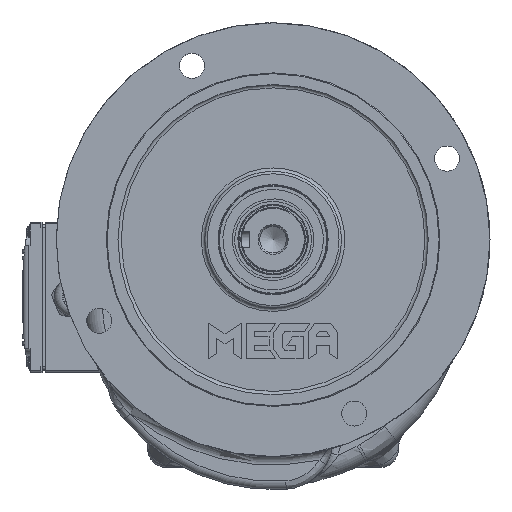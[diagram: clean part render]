
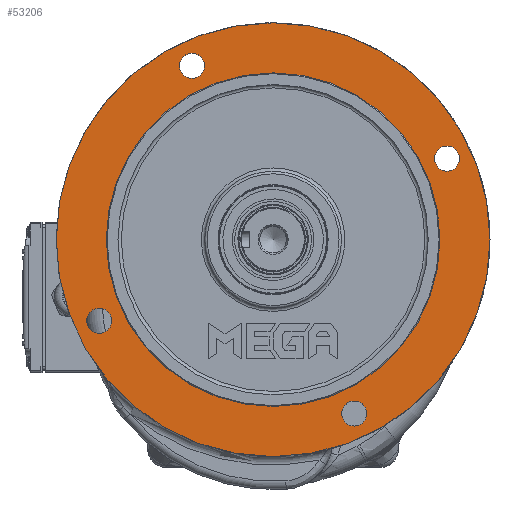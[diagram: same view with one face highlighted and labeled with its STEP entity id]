
A CAD part, top view. The second image highlights one B-rep face of the part: STEP entity #53206.
In plain terms, the highlighted planar face has unit normal (0, 0, 1).
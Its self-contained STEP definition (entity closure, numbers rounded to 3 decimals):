
#527=FACE_BOUND('',#12033,.T.);
#528=FACE_BOUND('',#12034,.T.);
#529=FACE_BOUND('',#12035,.T.);
#530=FACE_BOUND('',#12036,.T.);
#531=FACE_BOUND('',#12037,.T.);
#1030=PLANE('',#57438);
#8670=FACE_OUTER_BOUND('',#12032,.T.);
#12032=EDGE_LOOP('',(#37031));
#12033=EDGE_LOOP('',(#37032));
#12034=EDGE_LOOP('',(#37033));
#12035=EDGE_LOOP('',(#37034));
#12036=EDGE_LOOP('',(#37035));
#12037=EDGE_LOOP('',(#37036));
#15523=CIRCLE('',#57439,130.);
#15524=CIRCLE('',#57440,7.5);
#15525=CIRCLE('',#57441,7.5);
#15526=CIRCLE('',#57442,7.5);
#15527=CIRCLE('',#57443,7.5);
#15528=CIRCLE('',#57444,100.);
#21514=VERTEX_POINT('',#82349);
#21515=VERTEX_POINT('',#82351);
#21516=VERTEX_POINT('',#82353);
#21517=VERTEX_POINT('',#82355);
#21518=VERTEX_POINT('',#82357);
#21519=VERTEX_POINT('',#82359);
#27082=EDGE_CURVE('',#21514,#21514,#15523,.T.);
#27083=EDGE_CURVE('',#21515,#21515,#15524,.T.);
#27084=EDGE_CURVE('',#21516,#21516,#15525,.T.);
#27085=EDGE_CURVE('',#21517,#21517,#15526,.T.);
#27086=EDGE_CURVE('',#21518,#21518,#15527,.T.);
#27087=EDGE_CURVE('',#21519,#21519,#15528,.T.);
#37031=ORIENTED_EDGE('',*,*,#27082,.F.);
#37032=ORIENTED_EDGE('',*,*,#27083,.F.);
#37033=ORIENTED_EDGE('',*,*,#27084,.F.);
#37034=ORIENTED_EDGE('',*,*,#27085,.F.);
#37035=ORIENTED_EDGE('',*,*,#27086,.F.);
#37036=ORIENTED_EDGE('',*,*,#27087,.F.);
#53206=ADVANCED_FACE('',(#8670,#527,#528,#529,#530,#531),#1030,.T.);
#57438=AXIS2_PLACEMENT_3D('',#82348,#66027,#66028);
#57439=AXIS2_PLACEMENT_3D('',#82350,#66029,#66030);
#57440=AXIS2_PLACEMENT_3D('',#82352,#66031,#66032);
#57441=AXIS2_PLACEMENT_3D('',#82354,#66033,#66034);
#57442=AXIS2_PLACEMENT_3D('',#82356,#66035,#66036);
#57443=AXIS2_PLACEMENT_3D('',#82358,#66037,#66038);
#57444=AXIS2_PLACEMENT_3D('',#82360,#66039,#66040);
#66027=DIRECTION('center_axis',(0.,0.,
1.));
#66028=DIRECTION('ref_axis',(1.,0.,0.));
#66029=DIRECTION('center_axis',(0.,0.,
-1.));
#66030=DIRECTION('ref_axis',(1.,0.,0.));
#66031=DIRECTION('center_axis',(0.,0.,
1.));
#66032=DIRECTION('ref_axis',(0.,-1.,0.));
#66033=DIRECTION('center_axis',(0.,0.,
1.));
#66034=DIRECTION('ref_axis',(1.,0.,0.));
#66035=DIRECTION('center_axis',(0.,0.,
1.));
#66036=DIRECTION('ref_axis',(0.,1.,0.));
#66037=DIRECTION('center_axis',(0.,0.,
1.));
#66038=DIRECTION('ref_axis',(-1.,0.,0.));
#66039=DIRECTION('center_axis',(0.,0.,
1.));
#66040=DIRECTION('ref_axis',(-1.,0.,0.));
#82348=CARTESIAN_POINT('Origin',(46.079,242.876,-33.362));
#82349=CARTESIAN_POINT('',(-83.921,242.876,-33.362));
#82350=CARTESIAN_POINT('Origin',(46.079,242.876,-33.362));
#82351=CARTESIAN_POINT('',(-58.147,201.775,-33.362));
#82352=CARTESIAN_POINT('Origin',(-58.147,194.275,-33.362));
#82353=CARTESIAN_POINT('',(87.18,138.65,-33.362));
#82354=CARTESIAN_POINT('Origin',(94.68,138.65,-33.362));
#82355=CARTESIAN_POINT('',(150.304,283.977,-33.362));
#82356=CARTESIAN_POINT('Origin',(150.304,291.477,-33.362));
#82357=CARTESIAN_POINT('',(4.978,347.101,-33.362));
#82358=CARTESIAN_POINT('Origin',(-2.522,347.101,-33.362));
#82359=CARTESIAN_POINT('',(146.079,242.876,-33.362));
#82360=CARTESIAN_POINT('Origin',(46.079,242.876,-33.362));
